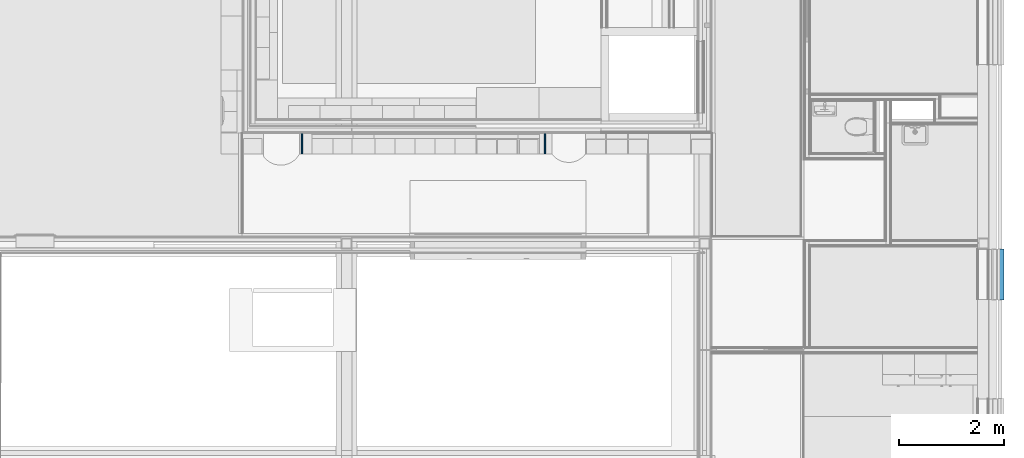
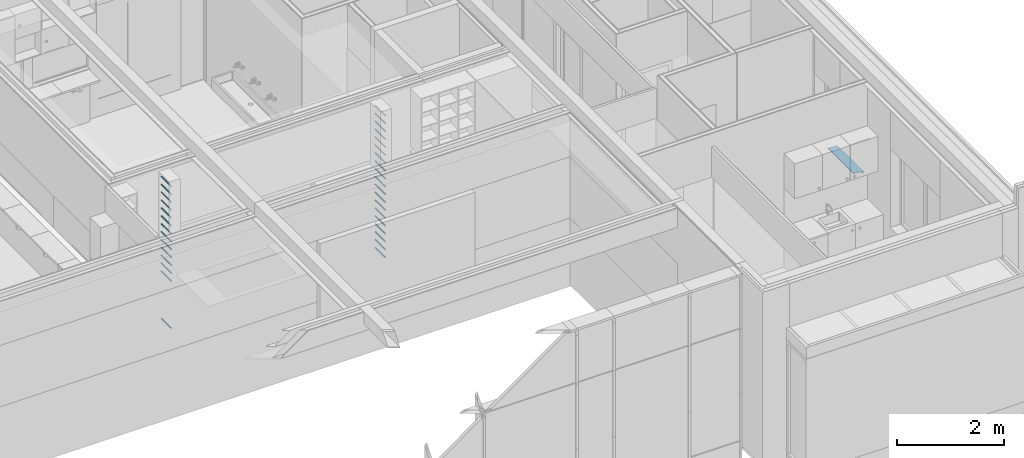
# One storey, part 33 of 137: 34 beams.
"""IFC2X3 building model written with IfcOpenShell, lengths in millimetres."""

from ifc_helpers import new_model, entity, si_unit, converted_unit, derived_unit, money_unit, direction, frame, origin_with_axes, place, context, subcontext, project, spatial, faceted_brep, material, type_object, element, save


model = new_model("IFC2X3")

# Units and contexts
model_context = context("Model", 3, precision=0.01, world=origin_with_axes(), true_north=direction((0.0, 1.0)))
body_context = subcontext(model_context, "Body", "Model", "MODEL_VIEW")
ifc_project = project(units=[si_unit("LENGTHUNIT", "METRE", prefix="MILLI"), si_unit("AREAUNIT", "SQUARE_METRE"), si_unit("VOLUMEUNIT", "CUBIC_METRE"), converted_unit("PLANEANGLEUNIT", "DEGREE", entity("IfcPlaneAngleMeasure", 0.0174532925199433), si_unit("PLANEANGLEUNIT", "RADIAN"), dimensions=[0, 0, 0, 0, 0, 0, 0]), money_unit("EUR"), converted_unit("TIMEUNIT", "Year", entity("IfcTimeMeasure", 31556926.0), si_unit("TIMEUNIT", "SECOND"), dimensions=[0, 0, 1, 0, 0, 0, 0]), si_unit("MASSUNIT", "GRAM", prefix="KILO"), si_unit("THERMODYNAMICTEMPERATUREUNIT", "DEGREE_CELSIUS"), si_unit("LUMINOUSINTENSITYUNIT", "LUMEN"), si_unit("ENERGYUNIT", "JOULE", prefix="MEGA"), derived_unit("THERMALCONDUCTANCEUNIT", [(si_unit("POWERUNIT", "WATT"), 1), (si_unit("LENGTHUNIT", "METRE"), -1), (si_unit("THERMODYNAMICTEMPERATUREUNIT", "KELVIN"), -1)]), derived_unit("SPECIFICHEATCAPACITYUNIT", [(si_unit("ENERGYUNIT", "JOULE"), 1), (si_unit("MASSUNIT", "GRAM", prefix="KILO"), -1), (si_unit("THERMODYNAMICTEMPERATUREUNIT", "KELVIN"), -1)]), derived_unit("MASSDENSITYUNIT", [(si_unit("MASSUNIT", "GRAM", prefix="KILO"), 1), (si_unit("VOLUMEUNIT", "CUBIC_METRE"), -1)])], contexts=[model_context])

# Site, building, storey
site_placement = place(None, origin_with_axes())
site = spatial("IfcSite", under=ifc_project, at=site_placement, Name="Site", CompositionType="ELEMENT")
building_placement = place(site_placement, origin_with_axes())
building = spatial("IfcBuilding", under=site, at=building_placement, Name="Naam gebouw", CompositionType="ELEMENT")
storey_placement = place(building_placement, frame((0.0, 0.0, 3960.0), z_axis=(0.0, 0.0, 1.0), x_axis=(1.0, 0.0, 0.0)))
storey = spatial("IfcBuildingStorey", under=building, at=storey_placement, Name="1e verdieping", CompositionType="ELEMENT", Elevation=3960.0)

# Beams
ifc_material_1 = material(Name="Metaal - Aluminium")
beam_type_1 = type_object("IfcBeamType", Name="41 Waterslag 218 x 75", PredefinedType="BEAM")
beam_1_placement = place(storey_placement, frame((30149.99999999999, 10705.00011055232, 750.0), z_axis=(0.0, 0.0, 1.0), x_axis=(-1.0, 0.0, 0.0)))
element("IfcBeam", 1, at=beam_1_placement, inside=storey, type_object=beam_type_1, material=ifc_material_1, Name="h4 Aluminium, aluminiumlegeringen_Regenwaterafvoer-x", ObjectType="BEAM", context=body_context, shape_type="Brep", body=[
    faceted_brep([(178.0000000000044, 0.0, 49.99999999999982), (178.0000000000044, 969.9999999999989, 49.99999999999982), (175.0000000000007, 969.9999999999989, 49.99999999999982), (175.0000000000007, 0.0, 49.99999999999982), (177.9999999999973, 0.0, 27.27462510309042), (177.9999999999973, 969.9999999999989, 27.27462510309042), (-36.99999999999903, 969.9999999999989, 12.08231741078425), (-36.99999999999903, 969.9999999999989, -21.99999999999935), (-21.99999999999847, 969.9999999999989, -21.99999999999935), (-21.99999999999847, 969.9999999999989, -24.99999999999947), (-39.99999999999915, 969.9999999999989, -24.99999999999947), (-39.99999999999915, 969.9999999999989, 15.00000000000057), (175.0000000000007, 969.9999999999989, 30.00000000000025), (175.0000000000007, 0.0, 30.00000000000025), (-39.99999999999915, 0.0, 15.00000000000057), (-39.99999999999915, 0.0, -24.99999999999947), (-21.99999999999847, 0.0, -24.99999999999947), (-21.99999999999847, 0.0, -21.99999999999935), (-36.99999999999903, 0.0, -21.99999999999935), (-36.99999999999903, 0.0, 12.08231741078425)], [[[0, 1, 2, 3]], [[4, 5, 1, 0]], [[2, 1, 5, 6, 7, 8, 9, 10, 11, 12]], [[3, 2, 12, 13]], [[4, 0, 3, 13, 14, 15, 16, 17, 18, 19]], [[19, 6, 5, 4]], [[18, 7, 6, 19]], [[17, 8, 7, 18]], [[16, 9, 8, 17]], [[15, 10, 9, 16]], [[14, 11, 10, 15]], [[13, 12, 11, 14]]]),
])
ifc_material_2 = material(Name="ALG - ALGEMEEN")
beam_type_2 = type_object("IfcBeamType", Name="ALG - ALGEMEEN D30", PredefinedType="BEAM")
for number, where, z_axis, x_axis, name in (
    (2, (21470.30448641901, 12893.3162414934, 1425.0), (0.0, 0.0, 1.0), (-1.0, 0.0, 0.0), "_Regenwaterafvoer-x"),
    (3, (21470.30448641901, 12893.3162414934, 1245.0), (0.0, 0.0, 1.0), (-1.0, 0.0, 0.0), "_Regenwaterafvoer-x"),
    (4, (21470.30448641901, 12893.3162414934, 3045.000000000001), (0.0, 0.0, 1.0), (-1.0, 0.0, 0.0), "_Regenwaterafvoer-x"),
    (5, (21470.30448641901, 12893.3162414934, 1965.000000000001), (0.0, 0.0, 1.0), (-1.0, 0.0, 0.0), "_Regenwaterafvoer-x"),
    (6, (21470.30448641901, 12893.3162414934, 1785.0), (0.0, 0.0, 1.0), (-1.0, 0.0, 0.0), "_Regenwaterafvoer-x"),
    (7, (21470.30448641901, 12893.3162414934, 1605.0), (0.0, 0.0, 1.0), (-1.0, 0.0, 0.0), "_Regenwaterafvoer-x"),
    (8, (21470.30448641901, 12893.3162414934, 2685.0), (0.0, 0.0, 1.0), (-1.0, 0.0, 0.0), "_Regenwaterafvoer-x"),
    (9, (21470.30448641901, 12893.3162414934, 2505.000000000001), (0.0, 0.0, 1.0), (-1.0, 0.0, 0.0), "_Regenwaterafvoer-x"),
    (10, (21470.30448641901, 12893.3162414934, 2325.0), (0.0, 0.0, 1.0), (-1.0, 0.0, 0.0), "_Regenwaterafvoer-x"),
    (11, (21470.30448641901, 12893.3162414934, 2145.0), (0.0, 0.0, 1.0), (-1.0, 0.0, 0.0), "_Regenwaterafvoer-x"),
    (12, (21470.30448641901, 12893.3162414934, 2865.000000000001), (0.0, 0.0, 1.0), (-1.0, 0.0, 0.0), "_Regenwaterafvoer-x"),
):
    element("IfcBeam", number, at=place(storey_placement, frame(where, z_axis=z_axis, x_axis=x_axis)), inside=storey, type_object=beam_type_2, material=ifc_material_2, Name=name, ObjectType="BEAM", context=body_context, shape_type="Brep", body=[
        faceted_brep([(12.99038105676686, 0.0, 7.500000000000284), (12.99038105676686, 379.999999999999, 7.500000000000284), (7.500000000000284, 379.999999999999, 12.99038105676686), (7.500000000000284, 0.0, 12.99038105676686), (15.00000000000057, 0.0, 0.0), (15.00000000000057, 379.999999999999, 0.0), (12.99038105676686, 379.999999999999, -7.500000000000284), (7.500000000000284, 379.999999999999, -12.99038105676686), (0.0, 379.999999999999, -14.99999999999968), (-7.500000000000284, 379.999999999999, -12.99038105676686), (-12.99038105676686, 379.999999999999, -7.500000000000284), (-15.00000000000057, 379.999999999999, 0.0), (-12.99038105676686, 379.999999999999, 7.500000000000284), (-7.500000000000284, 379.999999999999, 12.99038105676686), (0.0, 379.999999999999, 14.99999999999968), (0.0, 0.0, 14.99999999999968), (-7.500000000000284, 0.0, 12.99038105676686), (-12.99038105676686, 0.0, 7.500000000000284), (-15.00000000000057, 0.0, 0.0), (-12.99038105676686, 0.0, -7.500000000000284), (-7.500000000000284, 0.0, -12.99038105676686), (0.0, 0.0, -14.99999999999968), (7.500000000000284, 0.0, -12.99038105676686), (12.99038105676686, 0.0, -7.500000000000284)], [[[0, 1, 2, 3]], [[4, 5, 1, 0]], [[2, 1, 5, 6, 7, 8, 9, 10, 11, 12, 13, 14]], [[3, 2, 14, 15]], [[4, 0, 3, 15, 16, 17, 18, 19, 20, 21, 22, 23]], [[23, 6, 5, 4]], [[22, 7, 6, 23]], [[21, 8, 7, 22]], [[20, 9, 8, 21]], [[19, 10, 9, 20]], [[18, 11, 10, 19]], [[17, 12, 11, 18]], [[16, 13, 12, 17]], [[15, 14, 13, 16]]]),
    ])
for number, where, z_axis, x_axis, name in (
    (13, (16849.70874993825, 12893.3162414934, 1245.0), (0.0, 0.0, 1.0), (-1.0, 0.0, 0.0), "_Regenwaterafvoer-x"),
    (14, (16849.70874993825, 12893.3162414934, 1605.0), (0.0, 0.0, 1.0), (-1.0, 0.0, 0.0), "_Regenwaterafvoer-x"),
    (15, (16849.70874993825, 12893.3162414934, 1425.0), (0.0, 0.0, 1.0), (-1.0, 0.0, 0.0), "_Regenwaterafvoer-x"),
    (16, (16849.70874993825, 12893.3162414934, 1785.0), (0.0, 0.0, 1.0), (-1.0, 0.0, 0.0), "_Regenwaterafvoer-x"),
    (17, (16849.70874993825, 12893.3162414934, 1965.000000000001), (0.0, 0.0, 1.0), (-1.0, 0.0, 0.0), "_Regenwaterafvoer-x"),
    (18, (16849.70874993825, 12893.3162414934, 2145.0), (0.0, 0.0, 1.0), (-1.0, 0.0, 0.0), "_Regenwaterafvoer-x"),
    (19, (16849.70874993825, 12893.3162414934, 2325.0), (0.0, 0.0, 1.0), (-1.0, 0.0, 0.0), "_Regenwaterafvoer-x"),
    (20, (16849.70874993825, 12893.3162414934, 2685.0), (0.0, 0.0, 1.0), (-1.0, 0.0, 0.0), "_Regenwaterafvoer-x"),
    (21, (16849.70874993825, 12893.3162414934, 2505.000000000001), (0.0, 0.0, 1.0), (-1.0, 0.0, 0.0), "_Regenwaterafvoer-x"),
    (22, (16849.70874993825, 12893.3162414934, 2865.000000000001), (0.0, 0.0, 1.0), (-1.0, 0.0, 0.0), "_Regenwaterafvoer-x"),
    (23, (16849.70874993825, 12893.3162414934, 3045.000000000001), (0.0, 0.0, 1.0), (-1.0, 0.0, 0.0), "_Regenwaterafvoer-x"),
):
    element("IfcBeam", number, at=place(storey_placement, frame(where, z_axis=z_axis, x_axis=x_axis)), inside=storey, type_object=beam_type_2, material=ifc_material_2, Name=name, ObjectType="BEAM", context=body_context, shape_type="Brep", body=[
        faceted_brep([(-15.00000000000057, 0.0, 0.0), (-15.00000000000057, 380.0000000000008, 0.0), (-12.99038105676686, 380.0000000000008, -7.500000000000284), (-12.99038105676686, 0.0, -7.500000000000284), (-12.99038105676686, 0.0, 7.500000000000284), (-12.99038105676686, 380.0000000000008, 7.500000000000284), (-7.500000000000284, 380.0000000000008, 12.99038105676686), (0.0, 380.0000000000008, 14.99999999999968), (7.500000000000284, 380.0000000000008, 12.99038105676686), (12.99038105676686, 380.0000000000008, 7.500000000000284), (15.00000000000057, 380.0000000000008, 0.0), (12.99038105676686, 380.0000000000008, -7.500000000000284), (7.500000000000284, 380.0000000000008, -12.99038105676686), (0.0, 380.0000000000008, -14.99999999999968), (-7.500000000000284, 380.0000000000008, -12.99038105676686), (-7.500000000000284, 0.0, -12.99038105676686), (0.0, 0.0, -14.99999999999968), (7.500000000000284, 0.0, -12.99038105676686), (12.99038105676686, 0.0, -7.500000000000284), (15.00000000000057, 0.0, 0.0), (12.99038105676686, 0.0, 7.500000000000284), (7.500000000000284, 0.0, 12.99038105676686), (0.0, 0.0, 14.99999999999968), (-7.500000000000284, 0.0, 12.99038105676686)], [[[0, 1, 2, 3]], [[4, 5, 1, 0]], [[2, 1, 5, 6, 7, 8, 9, 10, 11, 12, 13, 14]], [[3, 2, 14, 15]], [[4, 0, 3, 15, 16, 17, 18, 19, 20, 21, 22, 23]], [[23, 6, 5, 4]], [[22, 7, 6, 23]], [[21, 8, 7, 22]], [[20, 9, 8, 21]], [[19, 10, 9, 20]], [[18, 11, 10, 19]], [[17, 12, 11, 18]], [[16, 13, 12, 17]], [[15, 14, 13, 16]]]),
    ])
for number, where, z_axis, x_axis, name in (
    (24, (21470.30448641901, 12893.3162414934, 344.9999999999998), (0.0, 0.0, 1.0), (-1.0, 0.0, 0.0), "_Regenwaterafvoer-x"),
    (25, (21470.30448641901, 12893.3162414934, 165.0), (0.0, 0.0, 1.0), (-1.0, 0.0, 0.0), "_Regenwaterafvoer-x"),
):
    element("IfcBeam", number, at=place(storey_placement, frame(where, z_axis=z_axis, x_axis=x_axis)), inside=storey, type_object=beam_type_2, material=ifc_material_2, Name=name, ObjectType="BEAM", context=body_context, shape_type="Brep", body=[
        faceted_brep([(-12.99038105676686, 6.318459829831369, -7.500000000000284), (-15.00000000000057, 6.318459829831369, 0.0), (-15.00000000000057, 370.3184598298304, 0.0), (-12.99038105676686, 370.3184598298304, -7.500000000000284), (-12.99038105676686, 6.318459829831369, 7.500000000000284), (-7.500000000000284, 6.318459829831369, -12.99038105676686), (0.0, 6.318459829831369, -14.99999999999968), (7.500000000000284, 6.318459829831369, -12.99038105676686), (12.99038105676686, 6.318459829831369, -7.500000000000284), (15.00000000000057, 6.318459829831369, 0.0), (12.99038105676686, 6.318459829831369, 7.500000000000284), (7.500000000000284, 6.318459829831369, 12.99038105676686), (0.0, 6.318459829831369, 14.99999999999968), (-7.500000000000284, 6.318459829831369, 12.99038105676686), (-12.99038105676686, 370.3184598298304, 7.500000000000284), (-7.500000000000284, 370.3184598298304, 12.99038105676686), (0.0, 370.3184598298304, 14.99999999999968), (7.500000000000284, 370.3184598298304, 12.99038105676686), (12.99038105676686, 370.3184598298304, 7.500000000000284), (15.00000000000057, 370.3184598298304, 0.0), (12.99038105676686, 370.3184598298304, -7.500000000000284), (7.500000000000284, 370.3184598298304, -12.99038105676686), (0.0, 370.3184598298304, -14.99999999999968), (-7.500000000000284, 370.3184598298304, -12.99038105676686)], [[[0, 1, 2, 3]], [[4, 1, 0, 5, 6, 7, 8, 9, 10, 11, 12, 13]], [[1, 4, 14, 2]], [[3, 2, 14, 15, 16, 17, 18, 19, 20, 21, 22, 23]], [[5, 0, 3, 23]], [[6, 5, 23, 22]], [[7, 6, 22, 21]], [[8, 7, 21, 20]], [[9, 8, 20, 19]], [[10, 9, 19, 18]], [[11, 10, 18, 17]], [[12, 11, 17, 16]], [[13, 12, 16, 15]], [[4, 13, 15, 14]]]),
    ])
beam_2_placement = place(storey_placement, frame((16849.70874993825, 12893.3162414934, 165.0), z_axis=(0.0, 0.0, 1.0), x_axis=(-1.0, 0.0, 0.0)))
element("IfcBeam", 26, at=beam_2_placement, inside=storey, type_object=beam_type_2, material=ifc_material_2, Name="_Regenwaterafvoer-x", ObjectType="BEAM", context=body_context, shape_type="Brep", body=[
    faceted_brep([(-12.99038105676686, 6.318459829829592, -7.500000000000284), (-15.00000000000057, 6.318459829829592, 0.0), (-15.00000000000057, 370.3184598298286, 0.0), (-12.99038105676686, 370.3184598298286, -7.500000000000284), (-12.99038105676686, 6.318459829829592, 7.500000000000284), (-7.500000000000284, 6.318459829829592, -12.99038105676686), (0.0, 6.318459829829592, -14.99999999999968), (7.500000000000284, 6.318459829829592, -12.99038105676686), (12.99038105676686, 6.318459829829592, -7.500000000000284), (15.00000000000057, 6.318459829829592, 0.0), (12.99038105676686, 6.318459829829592, 7.500000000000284), (7.500000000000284, 6.318459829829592, 12.99038105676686), (0.0, 6.318459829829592, 14.99999999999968), (-7.500000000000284, 6.318459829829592, 12.99038105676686), (-12.99038105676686, 370.3184598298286, 7.500000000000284), (-7.500000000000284, 370.3184598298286, 12.99038105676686), (0.0, 370.3184598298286, 14.99999999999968), (7.500000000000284, 370.3184598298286, 12.99038105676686), (12.99038105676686, 370.3184598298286, 7.500000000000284), (15.00000000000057, 370.3184598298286, 0.0), (12.99038105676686, 370.3184598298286, -7.500000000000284), (7.500000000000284, 370.3184598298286, -12.99038105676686), (0.0, 370.3184598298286, -14.99999999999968), (-7.500000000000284, 370.3184598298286, -12.99038105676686)], [[[0, 1, 2, 3]], [[4, 1, 0, 5, 6, 7, 8, 9, 10, 11, 12, 13]], [[1, 4, 14, 2]], [[3, 2, 14, 15, 16, 17, 18, 19, 20, 21, 22, 23]], [[5, 0, 3, 23]], [[6, 5, 23, 22]], [[7, 6, 22, 21]], [[8, 7, 21, 20]], [[9, 8, 20, 19]], [[10, 9, 19, 18]], [[11, 10, 18, 17]], [[12, 11, 17, 16]], [[13, 12, 16, 15]], [[4, 13, 15, 14]]]),
])
for number, where, z_axis, x_axis, name in (
    (27, (21470.30448641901, 12893.3162414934, 525.0000000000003), (0.0, 0.0, 1.0), (-1.0, 0.0, 0.0), "_Regenwaterafvoer-x"),
    (28, (21470.30448641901, 12893.3162414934, 705.0000000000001), (0.0, 0.0, 1.0), (-1.0, 0.0, 0.0), "_Regenwaterafvoer-x"),
):
    element("IfcBeam", number, at=place(storey_placement, frame(where, z_axis=z_axis, x_axis=x_axis)), inside=storey, type_object=beam_type_2, material=ifc_material_2, Name=name, ObjectType="BEAM", context=body_context, shape_type="Brep", body=[
        faceted_brep([(-12.99038105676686, 6.318459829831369, -7.500000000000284), (-15.00000000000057, 6.318459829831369, 0.0), (-15.00000000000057, 370.3184598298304, 0.0), (-12.99038105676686, 370.3184598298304, -7.500000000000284), (-12.99038105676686, 6.318459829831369, 7.500000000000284), (-7.500000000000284, 6.318459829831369, -12.99038105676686), (0.0, 6.318459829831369, -14.99999999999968), (7.500000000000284, 6.318459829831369, -12.99038105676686), (12.99038105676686, 6.318459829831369, -7.500000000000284), (15.00000000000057, 6.318459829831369, 0.0), (12.99038105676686, 6.318459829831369, 7.500000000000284), (7.500000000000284, 6.318459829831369, 12.99038105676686), (0.0, 6.318459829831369, 14.99999999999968), (-7.500000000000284, 6.318459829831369, 12.99038105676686), (-12.99038105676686, 370.3184598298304, 7.500000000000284), (-7.500000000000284, 370.3184598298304, 12.99038105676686), (0.0, 370.3184598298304, 14.99999999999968), (7.500000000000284, 370.3184598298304, 12.99038105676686), (12.99038105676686, 370.3184598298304, 7.500000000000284), (15.00000000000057, 370.3184598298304, 0.0), (12.99038105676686, 370.3184598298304, -7.500000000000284), (7.500000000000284, 370.3184598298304, -12.99038105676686), (0.0, 370.3184598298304, -14.99999999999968), (-7.500000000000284, 370.3184598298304, -12.99038105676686)], [[[0, 1, 2, 3]], [[4, 1, 0, 5, 6, 7, 8, 9, 10, 11, 12, 13]], [[1, 4, 14, 2]], [[3, 2, 14, 15, 16, 17, 18, 19, 20, 21, 22, 23]], [[5, 0, 3, 23]], [[6, 5, 23, 22]], [[7, 6, 22, 21]], [[8, 7, 21, 20]], [[9, 8, 20, 19]], [[10, 9, 19, 18]], [[11, 10, 18, 17]], [[12, 11, 17, 16]], [[13, 12, 16, 15]], [[4, 13, 15, 14]]]),
    ])
for number, where, z_axis, x_axis, name in (
    (29, (21470.30448641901, 12893.3162414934, 885.0000000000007), (0.0, 0.0, 1.0), (-1.0, 0.0, 0.0), "_Regenwaterafvoer-x"),
    (30, (21470.30448641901, 12893.3162414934, 1065.0), (0.0, 0.0, 1.0), (-1.0, 0.0, 0.0), "_Regenwaterafvoer-x"),
):
    element("IfcBeam", number, at=place(storey_placement, frame(where, z_axis=z_axis, x_axis=x_axis)), inside=storey, type_object=beam_type_2, material=ifc_material_2, Name=name, ObjectType="BEAM", context=body_context, shape_type="Brep", body=[
        faceted_brep([(-12.99038105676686, 6.318459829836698, -7.500000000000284), (-15.00000000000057, 6.318459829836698, 0.0), (-15.00000000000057, 370.3184598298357, 0.0), (-12.99038105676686, 370.3184598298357, -7.500000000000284), (-12.99038105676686, 6.318459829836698, 7.500000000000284), (-7.500000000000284, 6.318459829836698, -12.99038105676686), (0.0, 6.318459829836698, -14.99999999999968), (7.500000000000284, 6.318459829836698, -12.99038105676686), (12.99038105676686, 6.318459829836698, -7.500000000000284), (15.00000000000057, 6.318459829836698, 0.0), (12.99038105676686, 6.318459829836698, 7.500000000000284), (7.500000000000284, 6.318459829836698, 12.99038105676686), (0.0, 6.318459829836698, 14.99999999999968), (-7.500000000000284, 6.318459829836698, 12.99038105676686), (-12.99038105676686, 370.3184598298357, 7.500000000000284), (-7.500000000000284, 370.3184598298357, 12.99038105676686), (0.0, 370.3184598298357, 14.99999999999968), (7.500000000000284, 370.3184598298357, 12.99038105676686), (12.99038105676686, 370.3184598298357, 7.500000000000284), (15.00000000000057, 370.3184598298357, 0.0), (12.99038105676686, 370.3184598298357, -7.500000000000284), (7.500000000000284, 370.3184598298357, -12.99038105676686), (0.0, 370.3184598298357, -14.99999999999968), (-7.500000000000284, 370.3184598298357, -12.99038105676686)], [[[0, 1, 2, 3]], [[4, 1, 0, 5, 6, 7, 8, 9, 10, 11, 12, 13]], [[1, 4, 14, 2]], [[3, 2, 14, 15, 16, 17, 18, 19, 20, 21, 22, 23]], [[5, 0, 3, 23]], [[6, 5, 23, 22]], [[7, 6, 22, 21]], [[8, 7, 21, 20]], [[9, 8, 20, 19]], [[10, 9, 19, 18]], [[11, 10, 18, 17]], [[12, 11, 17, 16]], [[13, 12, 16, 15]], [[4, 13, 15, 14]]]),
    ])
for number, where, z_axis, x_axis, name in (
    (31, (16849.70874993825, 12893.3162414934, 3405.0), (0.0, 0.0, 1.0), (-1.0, 0.0, 0.0), "_Regenwaterafvoer-x"),
    (32, (16849.70874993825, 12893.3162414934, 3225.0), (0.0, 0.0, 1.0), (-1.0, 0.0, 0.0), "_Regenwaterafvoer-x"),
    (33, (21470.30448641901, 12893.3162414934, 3225.0), (0.0, 0.0, 1.0), (-1.0, 0.0, 0.0), "_Regenwaterafvoer-x"),
    (34, (21470.30448641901, 12893.3162414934, 3405.0), (0.0, 0.0, 1.0), (-1.0, 0.0, 0.0), "_Regenwaterafvoer-x"),
):
    element("IfcBeam", number, at=place(storey_placement, frame(where, z_axis=z_axis, x_axis=x_axis)), inside=storey, type_object=beam_type_2, material=ifc_material_2, Name=name, ObjectType="BEAM", context=body_context, shape_type="Brep", body=[
        faceted_brep([(-15.00000000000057, 0.0, 0.0), (-15.00000000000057, 380.0000000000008, 0.0), (-12.99038105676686, 380.0000000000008, -7.500000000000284), (-12.99038105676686, 0.0, -7.500000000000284), (-12.99038105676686, 0.0, 7.500000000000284), (-12.99038105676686, 380.0000000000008, 7.500000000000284), (-7.500000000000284, 380.0000000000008, 12.99038105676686), (0.0, 380.0000000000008, 14.99999999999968), (7.500000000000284, 380.0000000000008, 12.99038105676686), (12.99038105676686, 380.0000000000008, 7.500000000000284), (15.00000000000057, 380.0000000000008, 0.0), (12.99038105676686, 380.0000000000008, -7.500000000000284), (7.500000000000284, 380.0000000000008, -12.99038105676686), (0.0, 380.0000000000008, -14.99999999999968), (-7.500000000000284, 380.0000000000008, -12.99038105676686), (-7.500000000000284, 0.0, -12.99038105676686), (0.0, 0.0, -14.99999999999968), (7.500000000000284, 0.0, -12.99038105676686), (12.99038105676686, 0.0, -7.500000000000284), (15.00000000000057, 0.0, 0.0), (12.99038105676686, 0.0, 7.500000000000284), (7.500000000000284, 0.0, 12.99038105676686), (0.0, 0.0, 14.99999999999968), (-7.500000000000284, 0.0, 12.99038105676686)], [[[0, 1, 2, 3]], [[4, 5, 1, 0]], [[2, 1, 5, 6, 7, 8, 9, 10, 11, 12, 13, 14]], [[3, 2, 14, 15]], [[4, 0, 3, 15, 16, 17, 18, 19, 20, 21, 22, 23]], [[23, 6, 5, 4]], [[22, 7, 6, 23]], [[21, 8, 7, 22]], [[20, 9, 8, 21]], [[19, 10, 9, 20]], [[18, 11, 10, 19]], [[17, 12, 11, 18]], [[16, 13, 12, 17]], [[15, 14, 13, 16]]]),
    ])

save(model, "model.ifc")
